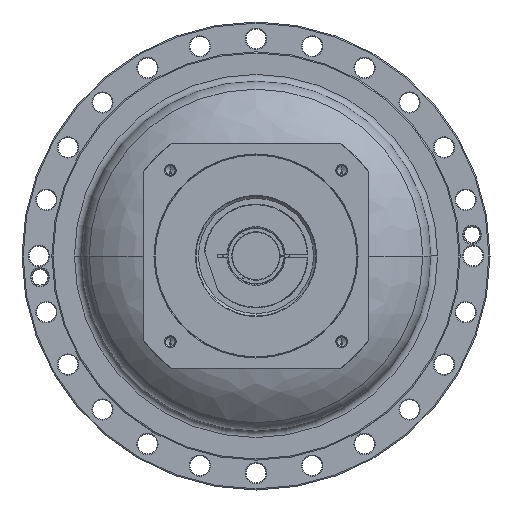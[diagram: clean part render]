
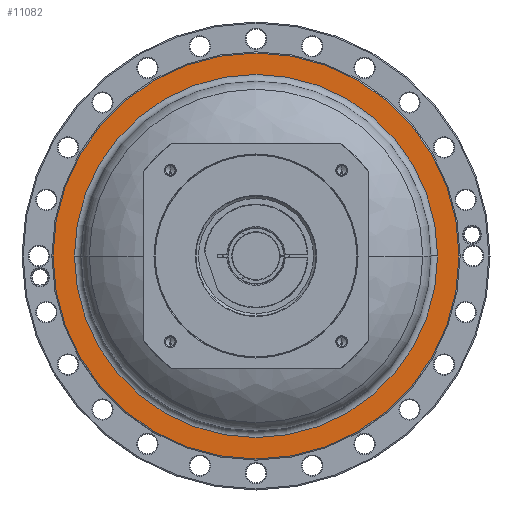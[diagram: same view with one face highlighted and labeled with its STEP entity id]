
A CAD part, left-side view. The second image highlights one B-rep face of the part: STEP entity #11082.
In plain terms, the highlighted planar face has unit normal (-1, 0, 0) as drawn and (1, 0, 0) by its records, which use the part's own axes.
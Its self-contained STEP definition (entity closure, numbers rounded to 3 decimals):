
#10543=CARTESIAN_POINT('',(-81.,0.,0.));
#10544=DIRECTION('',(-1.,0.,0.));
#10545=DIRECTION('',(0.,-1.,0.));
#10546=AXIS2_PLACEMENT_3D('',#10543,#10544,#10545);
#10548=CARTESIAN_POINT('',(-81.,0.,0.));
#10549=DIRECTION('',(-1.,0.,0.));
#10550=DIRECTION('',(0.,1.,0.));
#10551=AXIS2_PLACEMENT_3D('',#10548,#10549,#10550);
#10553=CARTESIAN_POINT('',(-81.,0.,0.));
#10554=DIRECTION('',(-1.,0.,0.));
#10555=DIRECTION('',(0.,-1.,0.));
#10556=AXIS2_PLACEMENT_3D('',#10553,#10554,#10555);
#10558=CARTESIAN_POINT('',(-81.,0.,0.));
#10559=DIRECTION('',(-1.,0.,0.));
#10560=DIRECTION('',(0.,1.,0.));
#10561=AXIS2_PLACEMENT_3D('',#10558,#10559,#10560);
#10683=CARTESIAN_POINT('',(-81.,-180.,0.));
#10684=CARTESIAN_POINT('',(-81.,180.,0.));
#10685=VERTEX_POINT('',#10683);
#10686=VERTEX_POINT('',#10684);
#10703=CARTESIAN_POINT('',(-81.,-161.,0.));
#10704=CARTESIAN_POINT('',(-81.,161.,0.));
#10705=VERTEX_POINT('',#10703);
#10706=VERTEX_POINT('',#10704);
#11067=CARTESIAN_POINT('',(-81.,0.,0.));
#11068=DIRECTION('',(1.,0.,0.));
#11069=DIRECTION('',(0.,-1.,0.));
#11070=AXIS2_PLACEMENT_3D('',#11067,#11068,#11069);
#11071=PLANE('',#11070);
#11073=ORIENTED_EDGE('',*,*,#11072,.T.);
#11075=ORIENTED_EDGE('',*,*,#11074,.T.);
#11076=EDGE_LOOP('',(#11073,#11075));
#11077=FACE_OUTER_BOUND('',#11076,.F.);
#11078=ORIENTED_EDGE('',*,*,#11061,.F.);
#11079=ORIENTED_EDGE('',*,*,#11047,.F.);
#11080=EDGE_LOOP('',(#11078,#11079));
#11081=FACE_BOUND('',#11080,.F.);
#11082=ADVANCED_FACE('',(#11077,#11081),#11071,.T.);
#10547=CIRCLE('',#10546,161.);
#10552=CIRCLE('',#10551,161.);
#10557=CIRCLE('',#10556,180.);
#10562=CIRCLE('',#10561,180.);
#11047=EDGE_CURVE('',#10706,#10705,#10552,.T.);
#11061=EDGE_CURVE('',#10705,#10706,#10547,.T.);
#11072=EDGE_CURVE('',#10685,#10686,#10557,.T.);
#11074=EDGE_CURVE('',#10686,#10685,#10562,.T.);
